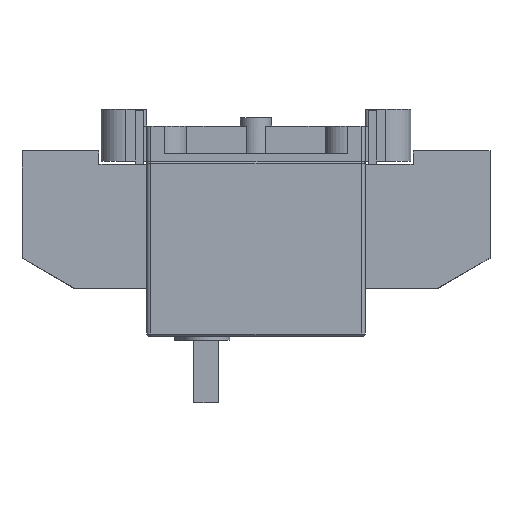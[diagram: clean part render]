
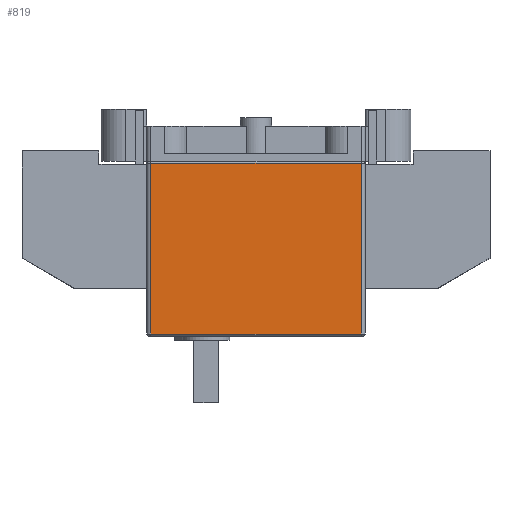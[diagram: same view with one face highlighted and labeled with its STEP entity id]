
A CAD part, left-side view. The second image highlights one B-rep face of the part: STEP entity #819.
In plain terms, the highlighted planar face has unit normal (-1, 0, 0).
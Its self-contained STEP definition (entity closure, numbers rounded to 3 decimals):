
#292=PLANE('',#8527);
#819=ADVANCED_FACE('',(#1309),#292,.F.);
#1309=FACE_OUTER_BOUND('',#1745,.T.);
#1745=EDGE_LOOP('',(#5291,#5292,#5293,#5294));
#2607=LINE('',#12757,#3483);
#2614=LINE('',#12837,#3490);
#2621=LINE('',#12853,#3497);
#2622=LINE('',#12855,#3498);
#3483=VECTOR('',#10385,1.);
#3490=VECTOR('',#10438,1.);
#3497=VECTOR('',#10461,1.);
#3498=VECTOR('',#10464,1.);
#5291=ORIENTED_EDGE('',*,*,#7573,.T.);
#5292=ORIENTED_EDGE('',*,*,#7539,.T.);
#5293=ORIENTED_EDGE('',*,*,#7574,.F.);
#5294=ORIENTED_EDGE('',*,*,#7563,.T.);
#6497=VERTEX_POINT('',#12745);
#6501=VERTEX_POINT('',#12754);
#6516=VERTEX_POINT('',#12809);
#6520=VERTEX_POINT('',#12836);
#7539=EDGE_CURVE('',#6501,#6497,#2607,.T.);
#7563=EDGE_CURVE('',#6516,#6520,#2614,.T.);
#7573=EDGE_CURVE('',#6520,#6501,#2621,.T.);
#7574=EDGE_CURVE('',#6516,#6497,#2622,.T.);
#8527=AXIS2_PLACEMENT_3D('',#12856,#10465,#10466);
#10385=DIRECTION('',(0.,1.,0.));
#10438=DIRECTION('',(0.,-1.,0.));
#10461=DIRECTION('',(0.,0.,1.));
#10464=DIRECTION('',(0.,0.,1.));
#10465=DIRECTION('',(1.,0.,0.));
#10466=DIRECTION('',(0.,1.,0.));
#12745=CARTESIAN_POINT('',(-197.5,50.5,-1.));
#12754=CARTESIAN_POINT('',(-197.5,-50.5,-1.));
#12757=CARTESIAN_POINT('',(-197.5,-50.5,-1.));
#12809=CARTESIAN_POINT('',(-197.5,50.5,-83.));
#12836=CARTESIAN_POINT('',(-197.5,-50.5,-83.));
#12837=CARTESIAN_POINT('',(-197.5,-50.5,-83.));
#12853=CARTESIAN_POINT('',(-197.5,-50.5,-84.));
#12855=CARTESIAN_POINT('',(-197.5,50.5,-84.));
#12856=CARTESIAN_POINT('',(-197.5,-50.5,-84.));
